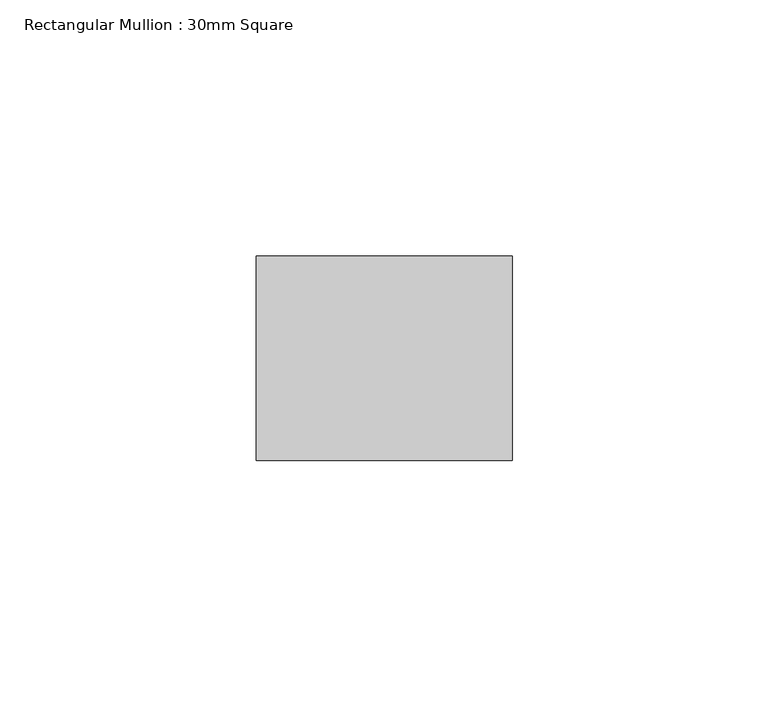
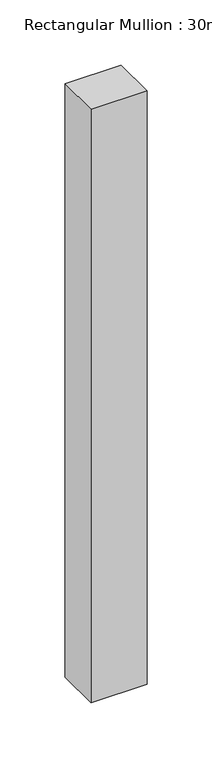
"""IFC4 building model written with IfcOpenShell, lengths in millimetres: member geometry, Rectangular Mullion : 30mm Square."""

from ifc_helpers import new_model, si_unit, frame, origin, place, context, project, spatial, polyline, outline, extrude, source, transform, mapped, element, save


def rectangular_mullion_30mm_square_0105706c(model_context):
    return source(origin(), model_context, "Body", "SweptSolid", [
        extrude(outline(polyline([(0.0, 20.0), (0.0, -20.0), (-50.0, -20.0), (-50.0, 20.0), (0.0, 20.0)])), frame((0.0, 0.0, -557.1900063), z_axis=(0.0, 0.0, 1.0), x_axis=(1.0, 0.0, 0.0)), (0.0, 0.0, 1.0), 557.1900063),
    ])


if __name__ == "__main__":
    model = new_model("IFC4")
    model_context = context("Model", 3, world=origin())
    ifc_project = project(units=[si_unit("LENGTHUNIT", "METRE", prefix="MILLI")], contexts=[model_context])
    site = spatial("IfcSite", under=ifc_project)
    building = spatial("IfcBuilding", under=site)
    placement = place(None, origin())
    rectangular_mullion_30mm_square_shape = rectangular_mullion_30mm_square_0105706c(model_context)
    element("IfcMember", 1, ObjectType="Rectangular Mullion : 30mm Square", at=placement, inside=building, context=model_context, shape_type="MappedRepresentation", body=[
        mapped(rectangular_mullion_30mm_square_shape, transform((0.0, 0.0, 0.0), x_axis=(1.0, 0.0, 0.0), y_axis=(0.0, 1.0, 0.0), z_axis=(0.0, 0.0, 1.0))),
    ])
    save(model, "model.ifc")
